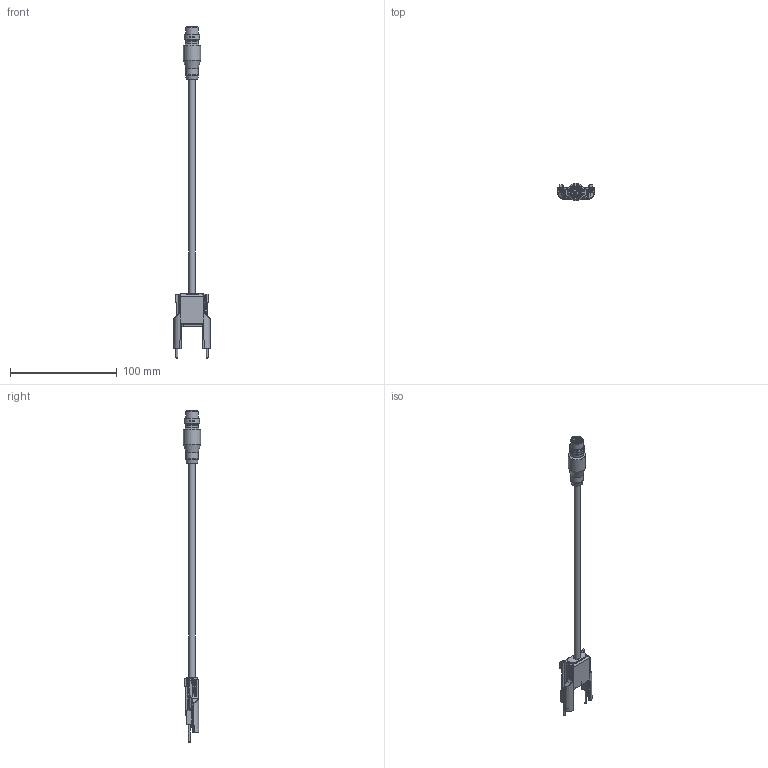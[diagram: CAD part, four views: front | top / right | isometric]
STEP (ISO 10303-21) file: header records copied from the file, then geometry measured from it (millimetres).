
FILE_DESCRIPTION(/* description */ (''),/* implementation_level */ '2;1');
FILE_NAME(/* name */ 'DSD- (95A252830-a).stp',/* time_stamp */ '2020-06-01T12:38:29+02:00',/* author */ (''),/* organization */ (''),/* preprocessor_version */ 'ST-DEVELOPER v16.7',/* originating_system */ 'SIEMENS PLM Software NX 12.0',/* authorisation */ '');
FILE_SCHEMA (('AUTOMOTIVE_DESIGN { 1 0 10303 214 3 1 1 1 }'));
Length unit declared in the file: millimetre
Products named in the file (9): AP002936_00_1-PINxM12_12P_cavo; AP002937_00_1-Plastica conn_M12_12P; AP003750_00_1-Cavo D6 L200 dritto; AP003746_00_2-Terminale CVL SG4E; MP001991_02_1-Vite imp. M2x29_5 testa cil. Ph; MP001955_04_1-Corpo connettore SG4E; MP001951_02_1-Guarnizione connettore SG4E; MP004242_01_1-Connector for M12-12P_MODELNX-ARRAGMNTArrangement 1; AS000534_05_1-SG4E cable plugs
Assembly tree (20 placements, depth 3):
  AS000534_05_1-SG4E cable plugs
    MP001951_02_1-Guarnizione connettore SG4E
    MP001955_04_1-Corpo connettore SG4E
    MP001991_02_1-Vite imp. M2x29_5 testa cil. Ph  x2
    AP003746_00_2-Terminale CVL SG4E
    MP004242_01_1-Connector for M12-12P_MODELNX-ARRAGMNTArrangement 1
      AP002937_00_1-Plastica conn_M12_12P
      AP002936_00_1-PINxM12_12P_cavo  x12
    AP003750_00_1-Cavo D6 L200 dritto
Bounding box: 35 x 16 x 310.7 mm (x, y, z)
Volume: 23008 mm3; surface area: 15887.9 mm2
Topology: 20 solids, 20 shells, 1097 faces, 2567 edges, 1653 vertices
Faces by surface type: plane 689, cylinder 265, bspline 59, cone 52, torus 28, sphere 4
Full cylindrical faces by diameter (mm): 0.6 x36, 0.7 x12, 0.8 x24, 1 x48, 1.6 x2, 1.8 x2, 1.886 x2, 2.05 x2, 3.6 x2, 4 x2, 6 x1, 8 x4, 8.3 x2, 9.3 x2, 9.4 x4, 9.5 x1, 10 x1, 10.4 x2, 11.5 x1, 12 x2, 13.5 x1, 14.5 x2, 16 x1
Entity records: 27356 total; most frequent: CARTESIAN_POINT 5815, DIRECTION 4290, ORIENTED_EDGE 4082, EDGE_CURVE 2041, AXIS2_PLACEMENT_3D 1449, VERTEX_POINT 1393, LINE 1392, VECTOR 1392
